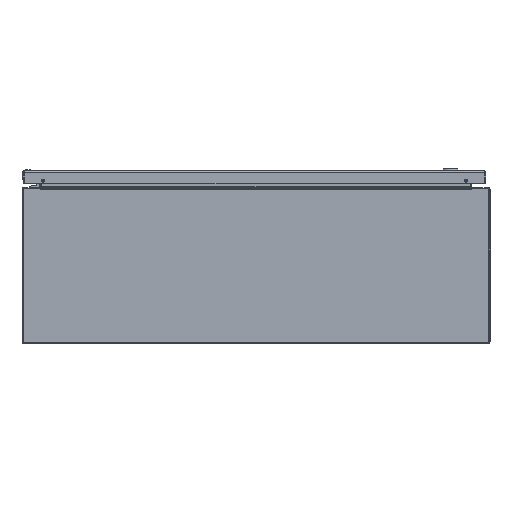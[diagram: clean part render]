
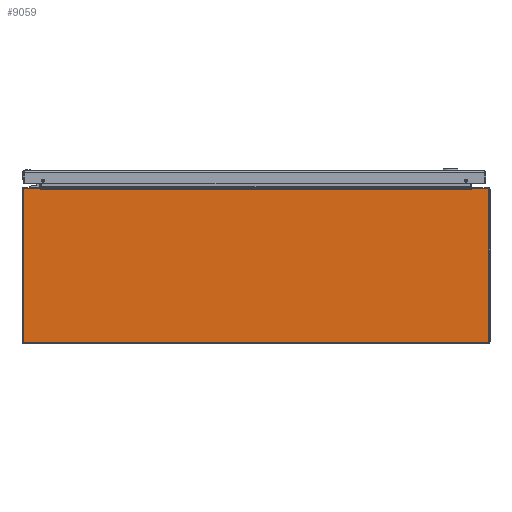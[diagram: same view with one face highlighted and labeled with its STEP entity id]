
A CAD part, front view. The second image highlights one B-rep face of the part: STEP entity #9059.
In plain terms, the highlighted planar face has unit normal (0, -1, 0).
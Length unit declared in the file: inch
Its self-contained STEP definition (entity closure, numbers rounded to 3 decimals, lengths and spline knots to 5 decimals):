
#7842=CARTESIAN_POINT('',(-14.857,0.,4.857));
#7843=DIRECTION('',(0.,-1.,0.));
#7844=DIRECTION('',(0.,0.,1.));
#7845=AXIS2_PLACEMENT_3D('',#7842,#7843,#7844);
#7850=DIRECTION('',(-1.,0.,0.));
#7851=VECTOR('',#7850,1.03388);
#7852=CARTESIAN_POINT('',(-13.82312,0.,4.937));
#7853=LINE('',#7852,#7851);
#7857=DIRECTION('',(0.174,0.,-0.985));
#7858=VECTOR('',#7857,0.05483);
#7859=CARTESIAN_POINT('',(-13.82312,0.,4.937));
#7860=LINE('',#7859,#7858);
#7864=DIRECTION('',(-1.,0.,0.));
#7865=VECTOR('',#7864,0.0156);
#7866=CARTESIAN_POINT('',(-13.798,0.,4.883));
#7867=LINE('',#7866,#7865);
#7871=DIRECTION('',(1.,0.,0.));
#7872=VECTOR('',#7871,0.0156);
#7873=CARTESIAN_POINT('',(13.798,0.,4.883));
#7874=LINE('',#7873,#7872);
#7878=DIRECTION('',(-0.174,0.,-0.985));
#7879=VECTOR('',#7878,0.05483);
#7880=CARTESIAN_POINT('',(13.82312,0.,4.937));
#7881=LINE('',#7880,#7879);
#7885=DIRECTION('',(-1.,0.,0.));
#7886=VECTOR('',#7885,1.03388);
#7887=CARTESIAN_POINT('',(14.857,0.,4.937));
#7888=LINE('',#7887,#7886);
#7892=CARTESIAN_POINT('',(14.857,0.,4.857));
#7893=DIRECTION('',(0.,-1.,0.));
#7894=DIRECTION('',(1.,0.,0.));
#7895=AXIS2_PLACEMENT_3D('',#7892,#7893,#7894);
#7900=DIRECTION('',(0.,0.,1.));
#7901=VECTOR('',#7900,9.714);
#7902=CARTESIAN_POINT('',(14.937,0.,-4.857));
#7903=LINE('',#7902,#7901);
#7907=CARTESIAN_POINT('',(14.857,0.,-4.857));
#7908=DIRECTION('',(0.,-1.,0.));
#7909=DIRECTION('',(0.,0.,-1.));
#7910=AXIS2_PLACEMENT_3D('',#7907,#7908,#7909);
#7915=DIRECTION('',(1.,0.,0.));
#7916=VECTOR('',#7915,29.714);
#7917=CARTESIAN_POINT('',(-14.857,0.,-4.937));
#7918=LINE('',#7917,#7916);
#7922=CARTESIAN_POINT('',(-14.857,0.,-4.857));
#7923=DIRECTION('',(0.,-1.,0.));
#7924=DIRECTION('',(-1.,0.,0.));
#7925=AXIS2_PLACEMENT_3D('',#7922,#7923,#7924);
#7930=DIRECTION('',(0.,0.,-1.));
#7931=VECTOR('',#7930,9.714);
#7932=CARTESIAN_POINT('',(-14.937,0.,4.857));
#7933=LINE('',#7932,#7931);
#8211=DIRECTION('',(1.,0.,0.));
#8212=VECTOR('',#8211,27.596);
#8213=CARTESIAN_POINT('',(-13.798,0.,4.883));
#8214=LINE('',#8213,#8212);
#8872=CARTESIAN_POINT('',(13.798,0.,4.883));
#8873=CARTESIAN_POINT('',(13.8136,0.,4.883));
#8874=VERTEX_POINT('',#8872);
#8875=VERTEX_POINT('',#8873);
#8876=CARTESIAN_POINT('',(13.82312,0.,4.937));
#8877=VERTEX_POINT('',#8876);
#8884=CARTESIAN_POINT('',(-13.798,0.,4.883));
#8885=CARTESIAN_POINT('',(-13.8136,0.,4.883));
#8886=VERTEX_POINT('',#8884);
#8887=VERTEX_POINT('',#8885);
#8888=CARTESIAN_POINT('',(-13.82312,0.,4.937));
#8889=VERTEX_POINT('',#8888);
#8948=CARTESIAN_POINT('',(-14.857,0.,4.937));
#8949=CARTESIAN_POINT('',(-14.937,0.,4.857));
#8950=VERTEX_POINT('',#8948);
#8951=VERTEX_POINT('',#8949);
#8956=CARTESIAN_POINT('',(-14.937,0.,-4.857));
#8957=CARTESIAN_POINT('',(-14.857,0.,-4.937));
#8958=VERTEX_POINT('',#8956);
#8959=VERTEX_POINT('',#8957);
#8964=CARTESIAN_POINT('',(14.857,0.,-4.937));
#8965=CARTESIAN_POINT('',(14.937,0.,-4.857));
#8966=VERTEX_POINT('',#8964);
#8967=VERTEX_POINT('',#8965);
#8972=CARTESIAN_POINT('',(14.937,0.,4.857));
#8973=CARTESIAN_POINT('',(14.857,0.,4.937));
#8974=VERTEX_POINT('',#8972);
#8975=VERTEX_POINT('',#8973);
#9024=CARTESIAN_POINT('',(0.,0.,0.));
#9025=DIRECTION('',(0.,-1.,0.));
#9026=DIRECTION('',(-1.,0.,0.));
#9027=AXIS2_PLACEMENT_3D('',#9024,#9025,#9026);
#9028=PLANE('',#9027);
#9030=ORIENTED_EDGE('',*,*,#9029,.F.);
#9032=ORIENTED_EDGE('',*,*,#9031,.F.);
#9034=ORIENTED_EDGE('',*,*,#9033,.T.);
#9036=ORIENTED_EDGE('',*,*,#9035,.F.);
#9038=ORIENTED_EDGE('',*,*,#9037,.T.);
#9040=ORIENTED_EDGE('',*,*,#9039,.T.);
#9042=ORIENTED_EDGE('',*,*,#9041,.F.);
#9044=ORIENTED_EDGE('',*,*,#9043,.F.);
#9046=ORIENTED_EDGE('',*,*,#9045,.F.);
#9048=ORIENTED_EDGE('',*,*,#9047,.F.);
#9050=ORIENTED_EDGE('',*,*,#9049,.F.);
#9052=ORIENTED_EDGE('',*,*,#9051,.F.);
#9054=ORIENTED_EDGE('',*,*,#9053,.F.);
#9056=ORIENTED_EDGE('',*,*,#9055,.F.);
#9057=EDGE_LOOP('',(#9030,#9032,#9034,#9036,#9038,#9040,#9042,#9044,#9046,#9048,
#9050,#9052,#9054,#9056));
#9058=FACE_OUTER_BOUND('',#9057,.F.);
#7846=CIRCLE('',#7845,0.08);
#7896=CIRCLE('',#7895,0.08);
#7911=CIRCLE('',#7910,0.08);
#7926=CIRCLE('',#7925,0.08);
#9029=EDGE_CURVE('',#8950,#8951,#7846,.T.);
#9031=EDGE_CURVE('',#8889,#8950,#7853,.T.);
#9033=EDGE_CURVE('',#8889,#8887,#7860,.T.);
#9035=EDGE_CURVE('',#8886,#8887,#7867,.T.);
#9037=EDGE_CURVE('',#8886,#8874,#8214,.T.);
#9039=EDGE_CURVE('',#8874,#8875,#7874,.T.);
#9041=EDGE_CURVE('',#8877,#8875,#7881,.T.);
#9043=EDGE_CURVE('',#8975,#8877,#7888,.T.);
#9045=EDGE_CURVE('',#8974,#8975,#7896,.T.);
#9047=EDGE_CURVE('',#8967,#8974,#7903,.T.);
#9049=EDGE_CURVE('',#8966,#8967,#7911,.T.);
#9051=EDGE_CURVE('',#8959,#8966,#7918,.T.);
#9053=EDGE_CURVE('',#8958,#8959,#7926,.T.);
#9055=EDGE_CURVE('',#8951,#8958,#7933,.T.);
#9059=ADVANCED_FACE('',(#9058),#9028,.T.);
